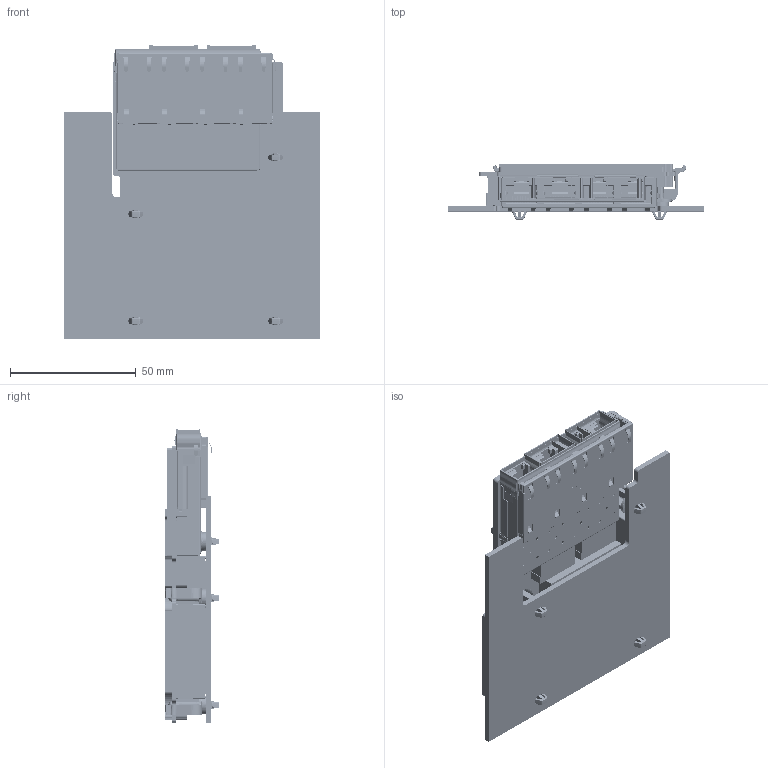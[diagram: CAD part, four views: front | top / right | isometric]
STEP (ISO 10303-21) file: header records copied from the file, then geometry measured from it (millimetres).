
FILE_DESCRIPTION((''),'2;1');
FILE_NAME('M2-SUPERSET-TYPE-2_ASM','2015-11-30T',('95030616'),(''),'PRO/ENGINEER BY PARAMETRIC TECHNOLOGY CORPORATION, 2013040','PRO/ENGINEER BY PARAMETRIC TECHNOLOGY CORPORATION, 2013040','');
FILE_SCHEMA(('AUTOMOTIVE_DESIGN { 1 0 10303 214 1 1 1 1 }'));
Products named in the file (260): P5-OCP-2_0-BOARD_2; F01-LED-EVERLIGHT; FCI-P61083-124X2XXX_2; FCI_61083_084402LF_LEOPARD_E1; P5-BTM-KEEPOUT-2MM; P5-BTM-KEEPOUT-2_9MM; P5-TOP-KEEPOUT-4_5MM; P5-TOP-KEEPOUT-4_5MM-3; P5-TOP-KEEPOUT-4MM; P5-TOP-KEEPOUT-4MM-2; P5-TOP-KEEPOUT-11_5MM; M-U90-A111-1001-REVT1; M-FS1-E38-X0M0-X0-REVT1; P5-MZ-2_0-BD-ASSY_1X4SFP_8MM_ASM; K1-OCP-2_0-BOARD_2; K1-BTM-KEEPOUT-2MM; K1-BTM-KEEPOUT-2_9MM; K1-TOP-KEEPOUT-4_5MM; K1-TOP-KEEPOUT-4_5MM-3; K1-TOP-KEEPOUT-4MM; K1-TOP-KEEPOUT-4MM-2; K1-TOP-KEEPOUT-11_5MM; K1-MZ-2_0-BD-ASSY_1X4SFP_8MM_ASM; K4-OCP-2_0-BOARD_2; CM-74754-0420-395450; 64POS-PLUG4; K4-BTM-KEEPOUT-2MM; K4-BTM-KEEPOUT-2_9MM; K4-TOP-KEEPOUT-4_5MM; K4-TOP-KEEPOUT-4_5MM-3; K4-TOP-KEEPOUT-4MM; K4-TOP-KEEPOUT-4MM-2; K4-TOP-KEEPOUT-11_5MM; K4-MZ-2_0-BD-ASSY_1X4SFP_8MM_ASM; K5-OCP-2_0-BOARD_2; K5-BTM-KEEPOUT-2MM; K5-BTM-KEEPOUT-2_9MM; K5-TOP-KEEPOUT-4_5MM; K5-TOP-KEEPOUT-4MM; K5-TOP-KEEPOUT-4MM-2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
Assembly tree (364 placements, depth 7):
  M2-SUPERSET-TYPE-2_ASM
    P5-MZ-2_0-BD-ASSY_1X4SFP_8MM_ASM
      P5-OCP-2_0-BOARD_2
      F01-LED-EVERLIGHT  x4
      FCI-P61083-124X2XXX_2
      FCI_61083_084402LF_LEOPARD_E1
      P5-BTM-KEEPOUT-2MM
      P5-BTM-KEEPOUT-2_9MM
      P5-TOP-KEEPOUT-4_5MM
      P5-TOP-KEEPOUT-4_5MM-3
      P5-TOP-KEEPOUT-4MM
      P5-TOP-KEEPOUT-4MM-2
      P5-TOP-KEEPOUT-11_5MM
      M-U90-A111-1001-REVT1  x2
      M-FS1-E38-X0M0-X0-REVT1  x2
    K1-MZ-2_0-BD-ASSY_1X4SFP_8MM_ASM
      K1-OCP-2_0-BOARD_2
      F01-LED-EVERLIGHT  x5
      FCI-P61083-124X2XXX_2
      FCI_61083_084402LF_LEOPARD_E1
      K1-BTM-KEEPOUT-2MM
      K1-BTM-KEEPOUT-2_9MM
      K1-TOP-KEEPOUT-4_5MM
      K1-TOP-KEEPOUT-4_5MM-3
      K1-TOP-KEEPOUT-4MM
      K1-TOP-KEEPOUT-4MM-2
      K1-TOP-KEEPOUT-11_5MM
      M-U90-A111-1001-REVT1  x2
      M-FS1-E38-X0M0-X0-REVT1  x2
    K4-MZ-2_0-BD-ASSY_1X4SFP_8MM_ASM
      K4-OCP-2_0-BOARD_2
      FCI-P61083-124X2XXX_2
      F01-LED-EVERLIGHT  x8
      CM-74754-0420-395450
      64POS-PLUG4
      K4-BTM-KEEPOUT-2MM
      K4-BTM-KEEPOUT-2_9MM
      K4-TOP-KEEPOUT-4_5MM
      K4-TOP-KEEPOUT-4_5MM-3
      K4-TOP-KEEPOUT-4MM
      K4-TOP-KEEPOUT-4MM-2
      K4-TOP-KEEPOUT-11_5MM
    K5-MZ-2_0-ASSY_1X4-RJ45_8MM_ASM
      K5-OCP-2_0-BOARD_2
      F01-LED-EVERLIGHT  x8
      64POS-PLUG4
      K5-BTM-KEEPOUT-2MM
      K5-BTM-KEEPOUT-2_9MM
      K5-TOP-KEEPOUT-4_5MM
      K5-TOP-KEEPOUT-4MM
      K5-TOP-KEEPOUT-4MM-2
      K5-TOP-KEEPOUT-11_5MM
      GDX_1X4-ASSY_ASM
        GD2_1X4_W_LED_ASM
          GD-P110__1X4
          GDX_LED_LEFT__W___ASM  x4
            R12-LED_LEFT
            LED_PIN-72141
          GDX_LED_RIGHT___W___ASM  x4
            R12-LED_RIGHT
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Bounding box: 101.72 x 21.77 x 116.55 mm (x, y, z)
Surface area: 307700.4 mm2
Topology: 315 solids, 317 shells, 35197 faces, 98351 edges, 62750 vertices
Faces by surface type: plane 29132, cylinder 5091, bspline 522, cone 227, sphere 171, torus 54
Entity records: 692929 total; most frequent: CARTESIAN_POINT 126089, ORIENTED_EDGE 104874, DIRECTION 96232, EDGE_CURVE 52437, VECTOR 45310, LINE 45310, VERTEX_POINT 33580, AXIS2_PLACEMENT_3D 25461
